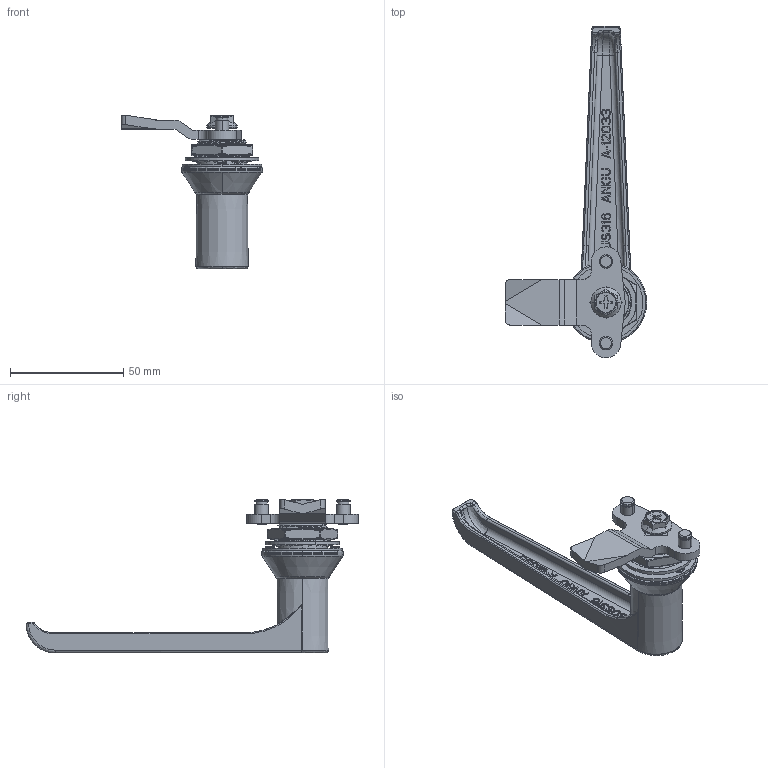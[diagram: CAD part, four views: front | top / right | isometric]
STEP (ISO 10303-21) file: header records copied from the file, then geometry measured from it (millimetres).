
FILE_DESCRIPTION (( 'STEP AP214' ), '1' );
FILE_NAME ('CUYUE B-1311-1.STEP', '2026-06-18T09:21:57', ( '' ), ( '' ), 'SwSTEP 2.0', 'SolidWorks 2020', '' );
FILE_SCHEMA (( 'AUTOMOTIVE_DESIGN' ));
Length unit declared in the file: millimetre
Products named in the file (25): B-1311蚾饜极_sldasm.sldasm-Part-3; B-1311蚾饜极_sldasm.sldasm-Part-11; B-1311蚾饜极_sldasm.sldasm-Part-2; B-1311蚾饜极_sldasm.sldasm-Part-24; B-1311蚾饜极_sldasm.sldasm-Part-6; B-1311蚾饜极_sldasm.sldasm-Part-12; B-1311蚾饜极_sldasm.sldasm-Part-5; B-1311蚾饜极_sldasm.sldasm-Part-7; B-1311蚾饜极_sldasm.sldasm-Part-4; B-1311蚾饜极_sldasm.sldasm-Part-20; B-1311蚾饜极_sldasm.sldasm-Part-1; B-1311蚾饜极_sldasm.sldasm-Part-23; B-1311蚾饜极_sldasm.sldasm-Part-19; B-1311蚾饜极_sldasm.sldasm-Part-18; B-1311蚾饜极_sldasm.sldasm-Part-13; B-1311蚾饜极_sldasm.sldasm-Part-15; B-1311蚾饜极_sldasm.sldasm-Part-21; CUYUE B-1311-1; B-1311蚾饜极_sldasm.sldasm-Part-9; B-1311蚾饜极_sldasm.sldasm-Part-8; B-1311蚾饜极_sldasm.sldasm-Part-14; B-1311蚾饜极_sldasm.sldasm-Part-17; B-1311蚾饜极_sldasm.sldasm-Part-22; B-1311蚾饜极_sldasm.sldasm-Part-16; B-1311蚾饜极_sldasm.sldasm-Part-10
Assembly tree (24 placements, depth 2):
  CUYUE B-1311-1
    B-1311蚾饜极_sldasm.sldasm-Part-1
    B-1311蚾饜极_sldasm.sldasm-Part-2
    B-1311蚾饜极_sldasm.sldasm-Part-3
    B-1311蚾饜极_sldasm.sldasm-Part-4
    B-1311蚾饜极_sldasm.sldasm-Part-5
    B-1311蚾饜极_sldasm.sldasm-Part-6
    B-1311蚾饜极_sldasm.sldasm-Part-7
    B-1311蚾饜极_sldasm.sldasm-Part-8
    B-1311蚾饜极_sldasm.sldasm-Part-9
    B-1311蚾饜极_sldasm.sldasm-Part-10
    B-1311蚾饜极_sldasm.sldasm-Part-11
    B-1311蚾饜极_sldasm.sldasm-Part-12
    B-1311蚾饜极_sldasm.sldasm-Part-13
    B-1311蚾饜极_sldasm.sldasm-Part-14
    B-1311蚾饜极_sldasm.sldasm-Part-15
    B-1311蚾饜极_sldasm.sldasm-Part-16
    B-1311蚾饜极_sldasm.sldasm-Part-17
    B-1311蚾饜极_sldasm.sldasm-Part-18
    B-1311蚾饜极_sldasm.sldasm-Part-19
    B-1311蚾饜极_sldasm.sldasm-Part-20
    B-1311蚾饜极_sldasm.sldasm-Part-21
    B-1311蚾饜极_sldasm.sldasm-Part-22
    B-1311蚾饜极_sldasm.sldasm-Part-23
    B-1311蚾饜极_sldasm.sldasm-Part-24
Bounding box: 62.5 x 146.49 x 67.93 mm (x, y, z)
Volume: 43363.7 mm3; surface area: 32994.1 mm2
Topology: 24 solids, 24 shells, 2081 faces, 5569 edges, 3572 vertices
Faces by surface type: plane 1068, cylinder 445, bspline 397, cone 86, torus 81, sphere 4
Entity records: 85972 total; most frequent: CARTESIAN_POINT 35343, ORIENTED_EDGE 11122, DIRECTION 8850, EDGE_CURVE 5561, VERTEX_POINT 3572, VECTOR 3286, LINE 3286, AXIS2_PLACEMENT_3D 2782
